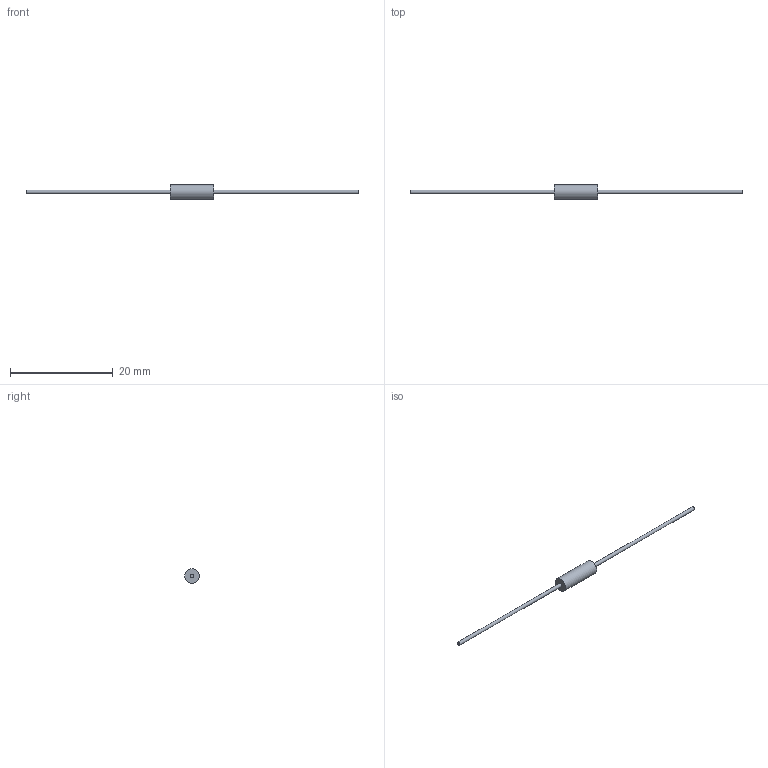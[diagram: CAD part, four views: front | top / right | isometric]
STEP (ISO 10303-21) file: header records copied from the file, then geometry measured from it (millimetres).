
FILE_DESCRIPTION(/* description */ (''),/* implementation_level */ '2;1');
FILE_NAME(/* name */ 'C:\Users\mulla\Documents\SEI Models\Inventor Files\RNS\RNS2_stp.stp',/* time_stamp */ '2019-06-27T20:10:32-04:00',/* author */ ('mulla'),/* organization */ (''),/* preprocessor_version */ 'ST-DEVELOPER v16.1',/* originating_system */ 'Autodesk Inventor 2016',/* authorisation */ '');
FILE_SCHEMA (('AUTOMOTIVE_DESIGN { 1 0 10303 214 3 1 1 }'));
Length unit declared in the file: millimetre
Products named in the file (1): RNS2
Bounding box: 64.5 x 2.8 x 2.8 mm (x, y, z)
Volume: 73.9 mm3; surface area: 211.8 mm2
Topology: 3 solids, 3 shells, 9 faces, 9 edges, 6 vertices
Faces by surface type: plane 6, cylinder 3
Full cylindrical faces by diameter (mm): 0.7 x2, 2.8 x1
Entity records: 199 total; most frequent: DIRECTION 32, CARTESIAN_POINT 22, AXIS2_PLACEMENT_3D 16, EDGE_LOOP 12, ORIENTED_EDGE 12, STYLED_ITEM 12, FACE_OUTER_BOUND 9, ADVANCED_FACE 9
